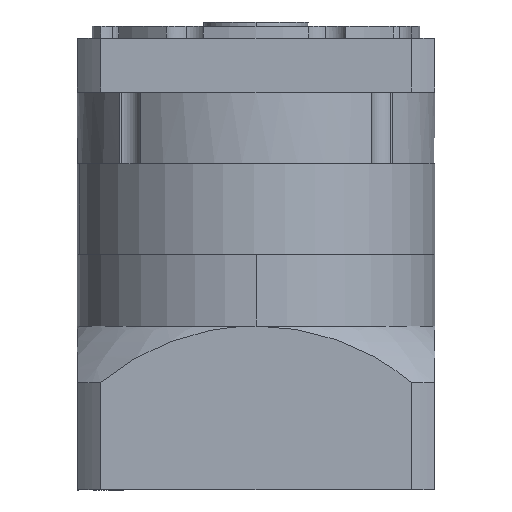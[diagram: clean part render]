
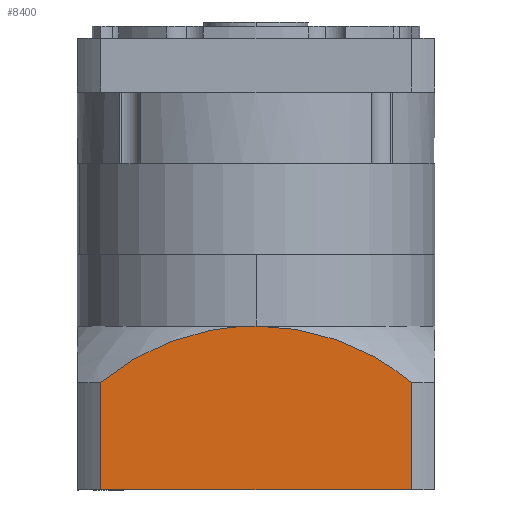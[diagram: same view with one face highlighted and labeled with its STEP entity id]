
A CAD part, left-side view. The second image highlights one B-rep face of the part: STEP entity #8400.
In plain terms, the highlighted planar face has unit normal (-1, 0, 0) as drawn and (0, 1, 0) by its records, which use the part's own axes.
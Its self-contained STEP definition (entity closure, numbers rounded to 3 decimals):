
#116 = VECTOR ( 'NONE', #25346, 1000. ) ;
#1063 = LINE ( 'NONE', #30422, #8177 ) ;
#1300 = CARTESIAN_POINT ( 'NONE',  ( 52.156, 60., -22. ) ) ;
#1442 = CARTESIAN_POINT ( 'NONE',  ( 5.943, 60., -3.209 ) ) ;
#2241 = VERTEX_POINT ( 'NONE', #16158 ) ;
#2868 = ORIENTED_EDGE ( 'NONE', *, *, #43333, .F. ) ;
#3999 = B_SPLINE_CURVE_WITH_KNOTS ( 'NONE', 3,
 ( #1300, #22271, #4830, #29347, #8371, #32827, #11950, #36330, #15581, #39859, #19108, #43270, #22548, #1442, #26019, #4982, #29494, #8529 ),
 .UNSPECIFIED., .F., .F.,
 ( 4, 2, 2, 2, 2, 2, 2, 2, 4 ),
 ( 0., 0.014, 0.021, 0.025, 0.028, 0.042, 0.049, 0.053, 0.056 ),
 .UNSPECIFIED. ) ;
#4176 = EDGE_CURVE ( 'NONE', #2241, #17750, #10195, .T. ) ;
#4830 = CARTESIAN_POINT ( 'NONE',  ( 44.654, 60., -16.23 ) ) ;
#4982 = CARTESIAN_POINT ( 'NONE',  ( 2.379, 60., -3.026 ) ) ;
#6006 = VERTEX_POINT ( 'NONE', #39567 ) ;
#6776 = CARTESIAN_POINT ( 'NONE',  ( -52.156, 60., -22. ) ) ;
#8177 = VECTOR ( 'NONE', #20052, 1000. ) ;
#8371 = CARTESIAN_POINT ( 'NONE',  ( 36.457, 60., -11.608 ) ) ;
#8400 = ADVANCED_FACE ( 'NONE', ( #33493 ), #31559, .T. ) ;
#8529 = CARTESIAN_POINT ( 'NONE',  ( 0., 60., -3. ) ) ;
#10195 = B_SPLINE_CURVE_WITH_KNOTS ( 'NONE', 3,
 ( #26127, #26031, #25985, #25926, #25923, #25878, #25868, #25838, #25785, #25778, #25726, #25686, #25628, #25623 ),
 .UNSPECIFIED., .F., .F.,
 ( 4, 2, 2, 2, 2, 2, 4 ),
 ( 0., 0.014, 0.021, 0.025, 0.028, 0.042, 0.056 ),
 .UNSPECIFIED. ) ;
#11838 = AXIS2_PLACEMENT_3D ( 'NONE', #31463, #31248, #31213 ) ;
#11950 = CARTESIAN_POINT ( 'NONE',  ( 32.157, 60., -9.629 ) ) ;
#15581 = CARTESIAN_POINT ( 'NONE',  ( 28.852, 60., -8.288 ) ) ;
#15857 = CARTESIAN_POINT ( 'NONE',  ( 52.156, 60., -58. ) ) ;
#16158 = CARTESIAN_POINT ( 'NONE',  ( 0., 60., -3. ) ) ;
#17176 = ORIENTED_EDGE ( 'NONE', *, *, #4176, .F. ) ;
#17750 = VERTEX_POINT ( 'NONE', #6776 ) ;
#18311 = CARTESIAN_POINT ( 'NONE',  ( -52.156, 60., -58. ) ) ;
#19108 = CARTESIAN_POINT ( 'NONE',  ( 18.757, 60., -5.055 ) ) ;
#20052 = DIRECTION ( 'NONE',  ( -1., 0., 0. ) ) ;
#21768 = CARTESIAN_POINT ( 'NONE',  ( -52.156, 60., 0. ) ) ;
#22271 = CARTESIAN_POINT ( 'NONE',  ( 48.515, 60., -18.934 ) ) ;
#22529 = EDGE_CURVE ( 'NONE', #26299, #6006, #33992, .T. ) ;
#22548 = CARTESIAN_POINT ( 'NONE',  ( 9.481, 60., -3.52 ) ) ;
#23181 = CARTESIAN_POINT ( 'NONE',  ( 52.156, 60., -22. ) ) ;
#23741 = EDGE_CURVE ( 'NONE', #6006, #27693, #1063, .T. ) ;
#24750 = VECTOR ( 'NONE', #36600, 1000. ) ;
#25346 = DIRECTION ( 'NONE',  ( 0., 0., -1. ) ) ;
#25623 = CARTESIAN_POINT ( 'NONE',  ( -52.156, 60., -22. ) ) ;
#25628 = CARTESIAN_POINT ( 'NONE',  ( -48.507, 60., -18.927 ) ) ;
#25686 = CARTESIAN_POINT ( 'NONE',  ( -44.646, 60., -16.225 ) ) ;
#25726 = CARTESIAN_POINT ( 'NONE',  ( -36.521, 60., -11.527 ) ) ;
#25778 = CARTESIAN_POINT ( 'NONE',  ( -32.258, 60., -9.53 ) ) ;
#25785 = CARTESIAN_POINT ( 'NONE',  ( -26.667, 60., -7.493 ) ) ;
#25838 = CARTESIAN_POINT ( 'NONE',  ( -25.537, 60., -7.109 ) ) ;
#25868 = CARTESIAN_POINT ( 'NONE',  ( -23.273, 60., -6.396 ) ) ;
#25878 = CARTESIAN_POINT ( 'NONE',  ( -22.137, 60., -6.065 ) ) ;
#25923 = CARTESIAN_POINT ( 'NONE',  ( -18.715, 60., -5.149 ) ) ;
#25926 = CARTESIAN_POINT ( 'NONE',  ( -16.416, 60., -4.641 ) ) ;
#25985 = CARTESIAN_POINT ( 'NONE',  ( -9.47, 60., -3.417 ) ) ;
#26019 = CARTESIAN_POINT ( 'NONE',  ( 4.756, 60., -3.131 ) ) ;
#26031 = CARTESIAN_POINT ( 'NONE',  ( -4.77, 60., -3. ) ) ;
#26127 = CARTESIAN_POINT ( 'NONE',  ( 0., 60., -3. ) ) ;
#26299 = VERTEX_POINT ( 'NONE', #23181 ) ;
#27693 = VERTEX_POINT ( 'NONE', #18311 ) ;
#29347 = CARTESIAN_POINT ( 'NONE',  ( 38.546, 60., -12.698 ) ) ;
#29494 = CARTESIAN_POINT ( 'NONE',  ( 1.19, 60., -3. ) ) ;
#30262 = EDGE_LOOP ( 'NONE', ( #17176, #32372, #38363, #40774, #2868 ) ) ;
#30422 = CARTESIAN_POINT ( 'NONE',  ( -60., 60., -58. ) ) ;
#30865 = EDGE_CURVE ( 'NONE', #26299, #2241, #3999, .T. ) ;
#31213 = DIRECTION ( 'NONE',  ( -1., 0., 0. ) ) ;
#31248 = DIRECTION ( 'NONE',  ( 0., 1., 0. ) ) ;
#31463 = CARTESIAN_POINT ( 'NONE',  ( -60., 60., -58. ) ) ;
#31559 = PLANE ( 'NONE',  #11838 ) ;
#32372 = ORIENTED_EDGE ( 'NONE', *, *, #30865, .F. ) ;
#32827 = CARTESIAN_POINT ( 'NONE',  ( 33.242, 60., -10.107 ) ) ;
#33493 = FACE_OUTER_BOUND ( 'NONE', #30262, .T. ) ;
#33992 = LINE ( 'NONE', #15857, #24750 ) ;
#36330 = CARTESIAN_POINT ( 'NONE',  ( 29.959, 60., -8.718 ) ) ;
#36600 = DIRECTION ( 'NONE',  ( 0., 0., -1. ) ) ;
#37256 = LINE ( 'NONE', #21768, #116 ) ;
#38363 = ORIENTED_EDGE ( 'NONE', *, *, #22529, .T. ) ;
#39567 = CARTESIAN_POINT ( 'NONE',  ( 52.156, 60., -58. ) ) ;
#39859 = CARTESIAN_POINT ( 'NONE',  ( 23.294, 60., -6.267 ) ) ;
#40774 = ORIENTED_EDGE ( 'NONE', *, *, #23741, .T. ) ;
#43270 = CARTESIAN_POINT ( 'NONE',  ( 11.817, 60., -3.829 ) ) ;
#43333 = EDGE_CURVE ( 'NONE', #17750, #27693, #37256, .T. ) ;
